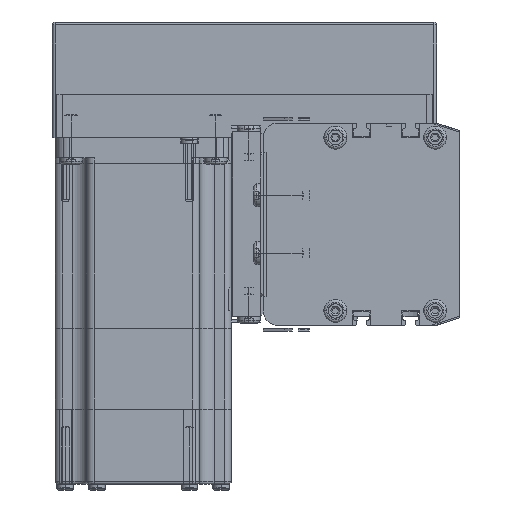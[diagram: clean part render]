
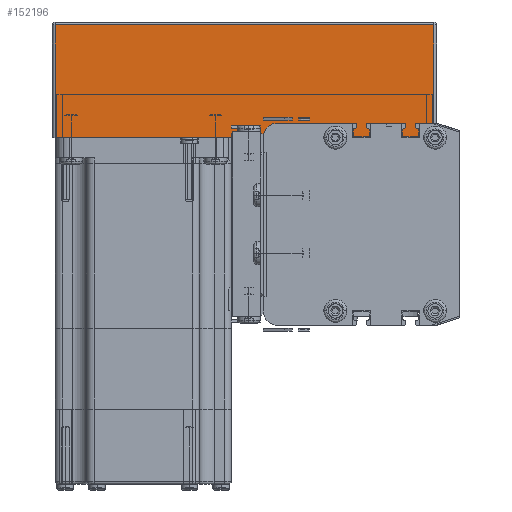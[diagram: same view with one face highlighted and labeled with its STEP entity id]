
A CAD part, left-side view. The second image highlights one B-rep face of the part: STEP entity #152196.
In plain terms, the highlighted planar face has unit normal (-1, 0, 0) as drawn and (0, -1, 0) by its records, which use the part's own axes.
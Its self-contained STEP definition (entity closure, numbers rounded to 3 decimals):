
#37 = VERTEX_POINT ( 'NONE', #124739 ) ;
#687 = VERTEX_POINT ( 'NONE', #134369 ) ;
#5099 = VERTEX_POINT ( 'NONE', #94548 ) ;
#5124 = VERTEX_POINT ( 'NONE', #94702 ) ;
#5138 = EDGE_CURVE ( 'NONE', #687, #5124, #94833, .T. ) ;
#5761 = EDGE_LOOP ( 'NONE', ( #152126, #152176, #152199, #6312 ) ) ;
#6312 = ORIENTED_EDGE ( 'NONE', *, *, #46921, .T. ) ;
#10357 = DIRECTION ( 'NONE',  ( 0., 0., 1. ) ) ;
#10359 = VECTOR ( 'NONE', #10357, 1000. ) ;
#10368 = CARTESIAN_POINT ( 'NONE',  ( 132., 0., 40. ) ) ;
#10369 = LINE ( 'NONE', #10368, #10359 ) ;
#42156 = DIRECTION ( 'NONE',  ( 1., 0., 0. ) ) ;
#42157 = VECTOR ( 'NONE', #42156, 1000. ) ;
#42158 = CARTESIAN_POINT ( 'NONE',  ( 0., 0., 0. ) ) ;
#42159 = LINE ( 'NONE', #42158, #42157 ) ;
#46921 = EDGE_CURVE ( 'NONE', #37, #687, #10369, .T. ) ;
#56414 = EDGE_CURVE ( 'NONE', #5099, #37, #42159, .T. ) ;
#94548 = CARTESIAN_POINT ( 'NONE',  ( 1., 0., 0. ) ) ;
#94702 = CARTESIAN_POINT ( 'NONE',  ( 1., 0., 39. ) ) ;
#94827 = DIRECTION ( 'NONE',  ( -1., 0., 0. ) ) ;
#94830 = VECTOR ( 'NONE', #94827, 1000. ) ;
#94831 = CARTESIAN_POINT ( 'NONE',  ( 0., 0., 39. ) ) ;
#94833 = LINE ( 'NONE', #94831, #94830 ) ;
#124739 = CARTESIAN_POINT ( 'NONE',  ( 132., 0., 0. ) ) ;
#134369 = CARTESIAN_POINT ( 'NONE',  ( 132., 0., 39. ) ) ;
#141797 = PLANE ( 'NONE',  #141807 ) ;
#141806 = FACE_OUTER_BOUND ( 'NONE', #5761, .T. ) ;
#141807 = AXIS2_PLACEMENT_3D ( 'NONE', #141852, #141851, #141850 ) ;
#141850 = DIRECTION ( 'NONE',  ( 0., 0., 1. ) ) ;
#141851 = DIRECTION ( 'NONE',  ( 0., 1., 0. ) ) ;
#141852 = CARTESIAN_POINT ( 'NONE',  ( 0., 0., 40. ) ) ;
#141857 = CARTESIAN_POINT ( 'NONE',  ( 1., 0., 40. ) ) ;
#141858 = LINE ( 'NONE', #141857, #141920 ) ;
#141919 = DIRECTION ( 'NONE',  ( 0., 0., -1. ) ) ;
#141920 = VECTOR ( 'NONE', #141919, 1000. ) ;
#152126 = ORIENTED_EDGE ( 'NONE', *, *, #5138, .T. ) ;
#152176 = ORIENTED_EDGE ( 'NONE', *, *, #152306, .T. ) ;
#152196 = ADVANCED_FACE ( 'NONE', ( #141806 ), #141797, .F. ) ;
#152199 = ORIENTED_EDGE ( 'NONE', *, *, #56414, .T. ) ;
#152306 = EDGE_CURVE ( 'NONE', #5124, #5099, #141858, .T. ) ;
